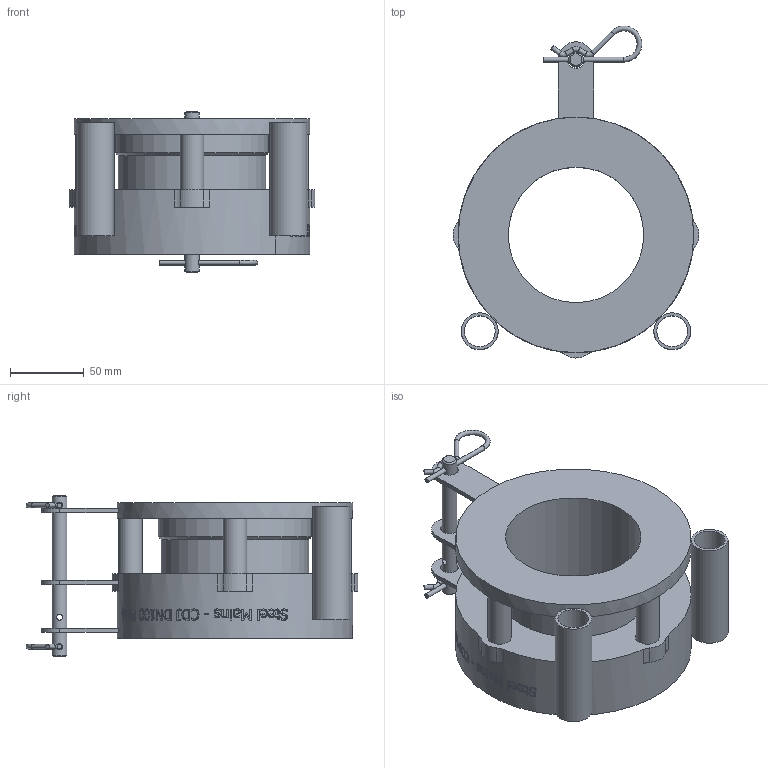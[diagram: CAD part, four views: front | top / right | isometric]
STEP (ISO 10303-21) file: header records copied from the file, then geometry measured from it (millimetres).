
FILE_DESCRIPTION(/* description */ (''),/* implementation_level */ '2;1');
FILE_NAME(/* name */ 'C:\Vault\Designs\Somerton\196\196-5 Models\Marketing Files\SteelMains - CDJ DN100 PN16 - (196-5T rev C).stp',/* time_stamp */ '2025-08-26T11:44:04+10:00',/* author */ ('Sam.Cavallaro'),/* organization */ (''),/* preprocessor_version */ 'ST-DEVELOPER v18.1',/* originating_system */ 'Autodesk Inventor 2021',/* authorisation */ '');
FILE_SCHEMA (('AUTOMOTIVE_DESIGN { 1 0 10303 214 3 1 1 }'));
Length unit declared in the file: millimetre
Products named in the file (1): SPS_ENG-084417
Bounding box: 167 x 225.37 x 110 mm (x, y, z)
Volume: 836073 mm3; surface area: 161306.9 mm2
Topology: 7 solids, 7 shells, 804 faces, 2183 edges, 1460 vertices
Faces by surface type: bspline 366, plane 311, cylinder 116, torus 8, cone 3
Full cylindrical faces by diameter (mm): 3.2 x10, 4 x3, 10 x1, 12 x3, 16 x4, 21 x2, 25 x2, 92 x1, 100 x1, 104 x2, 160 x1
Entity records: 35017 total; most frequent: CARTESIAN_POINT 16556, ORIENTED_EDGE 4372, DIRECTION 2731, EDGE_CURVE 2186, VERTEX_POINT 1463, LINE 1015, VECTOR 1015, EDGE_LOOP 897
